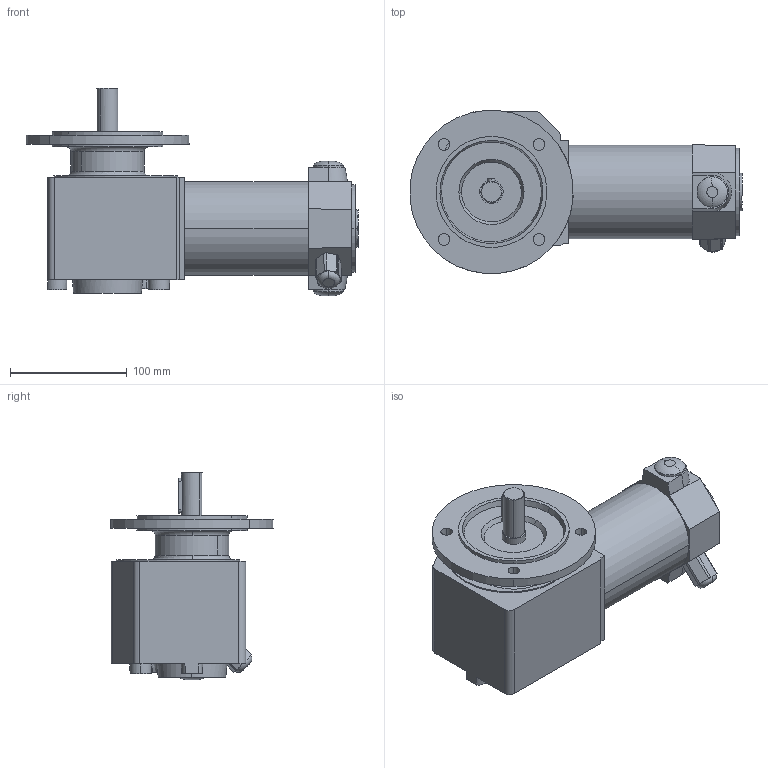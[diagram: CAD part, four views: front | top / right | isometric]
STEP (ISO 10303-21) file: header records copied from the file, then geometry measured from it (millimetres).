
FILE_DESCRIPTION(('OneSpaceDesigner STEP Export'),'2;1');
FILE_NAME('EPG12_ZF45.stp','2009-04-01T14:22:36',(''),(''),'OneSpace Designer STEP processor (Jan. 2003) for AP214(CD)(Solid Model)','OneSpace Designer 12.01D 09-Jul-2004 (C) CoCreate Software GmbH','');
FILE_SCHEMA(('AUTOMOTIVE_DESIGN_CC2 {1 2 10303 214 -1 1 5 1}'));
Length unit declared in the file: millimetre
Products named in the file (3): EPG12_ZF45; EPG12_ZF45.stp
Assembly tree (2 placements, depth 3):
  EPG12_ZF45.stp
    EPG12_ZF45
      EPG12_ZF45
Bounding box: 284.23 x 139.54 x 177.5 mm (x, y, z)
Volume: 2160792.5 mm3; surface area: 148659.3 mm2
Topology: 1 solids, 1 shells, 140 faces, 363 edges, 246 vertices
Faces by surface type: plane 59, cylinder 51, bspline 14, torus 10, cone 6
Entity records: 11896 total; most frequent: CARTESIAN_POINT 8793, ORIENTED_EDGE 726, DIRECTION 514, EDGE_CURVE 363, VERTEX_POINT 246, AXIS2_PLACEMENT_3D 178, EDGE_LOOP 169, VECTOR 158
